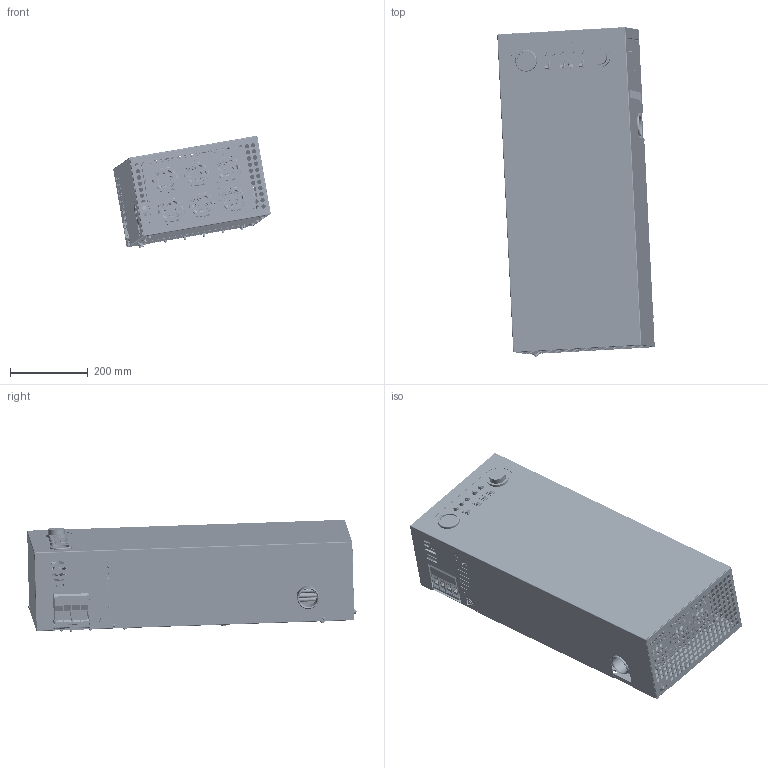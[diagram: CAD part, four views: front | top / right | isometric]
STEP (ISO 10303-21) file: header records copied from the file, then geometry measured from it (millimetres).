
FILE_DESCRIPTION(/* description */ (''),/* implementation_level */ '2;1');
FILE_NAME(/* name */ 'Y:\Конструкторский отдел\!Сборки\621179.012 КЭН-У6_Shrinkwrap_1.stp',/* time_stamp */ '2023-10-17T14:42:00+03:00',/* author */ ('nvsk-constr5'),/* organization */ (''),/* preprocessor_version */ 'ST-DEVELOPER v18.1',/* originating_system */ 'Autodesk Inventor 2021',/* authorisation */ '');
FILE_SCHEMA (('AUTOMOTIVE_DESIGN { 1 0 10303 214 3 1 1 }'));
Products named in the file (1): 621179.012 КЭН-У6_Shrinkw
rap_1
Bounding box: 405.45 x 848.21 x 289.42 mm (x, y, z)
Surface area: 3857930.2 mm2 (no closed solid volume)
Topology: 0 solids, 239 shells, 2804 faces, 9945 edges, 7360 vertices
Faces by surface type: plane 1479, cylinder 944, cone 211, bspline 87, torus 56, sphere 27
Full cylindrical faces by diameter (mm): 0.9 x1, 2 x1, 3.242 x16, 3.5 x2, 4 x6, 4.3 x2, 4.317 x2, 4.5 x3, 4.9 x1, 5 x38, 5.3 x1, 5.9 x9, 6 x10, 6.5 x1, 6.6 x1, 7.834 x2, 8 x9, 8.6 x2, 8.7 x6, 8.9 x3, 9 x19, 10 x83, 10.5 x36, 11 x215, 11.433 x2, 11.5 x5, 12 x12, 13.126 x2, 14 x5, 14.778 x2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
Entity records: 117498 total; most frequent: CARTESIAN_POINT 27098, DIRECTION 18063, ORIENTED_EDGE 15939, EDGE_CURVE 9951, VERTEX_POINT 7360, AXIS2_PLACEMENT_3D 6152, LINE 5759, VECTOR 5759
